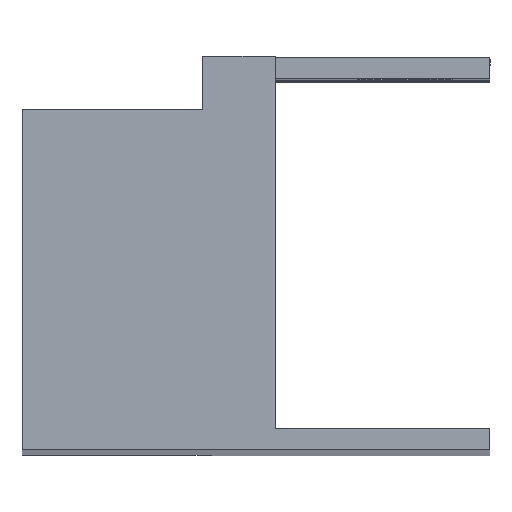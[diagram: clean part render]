
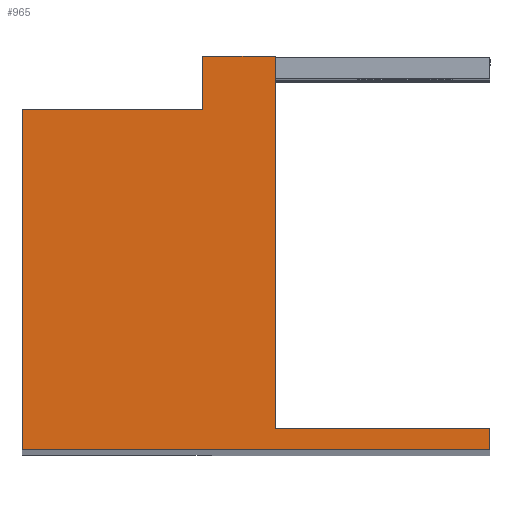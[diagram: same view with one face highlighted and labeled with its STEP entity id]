
A CAD part, top view. The second image highlights one B-rep face of the part: STEP entity #965.
In plain terms, the highlighted planar face has unit normal (0, 0, 1).
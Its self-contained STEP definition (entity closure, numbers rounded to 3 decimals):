
#1 = CARTESIAN_POINT ( 'NONE',  ( -6.1, -16.5, 113.25 ) ) ;
#18 = DIRECTION ( 'NONE',  ( 1., 0., 0. ) ) ;
#19 = CARTESIAN_POINT ( 'NONE',  ( -9.5, -1.5, 113.25 ) ) ;
#26 = DIRECTION ( 'NONE',  ( 0., 1., 0. ) ) ;
#53 = DIRECTION ( 'NONE',  ( 1., 0., 0. ) ) ;
#54 = CARTESIAN_POINT ( 'NONE',  ( -9.5, 1., 113.25 ) ) ;
#55 = CARTESIAN_POINT ( 'NONE',  ( 4., -16.5, 113.25 ) ) ;
#65 = CARTESIAN_POINT ( 'NONE',  ( 4., -17.5, 113.25 ) ) ;
#81 = CARTESIAN_POINT ( 'NONE',  ( -18., -17.5, 113.25 ) ) ;
#94 = DIRECTION ( 'NONE',  ( 0., 1., 0. ) ) ;
#102 = CARTESIAN_POINT ( 'NONE',  ( -6.1, 1., 113.25 ) ) ;
#107 = DIRECTION ( 'NONE',  ( -1., 0., 0. ) ) ;
#112 = CARTESIAN_POINT ( 'NONE',  ( -18., -1.5, 113.25 ) ) ;
#154 = DIRECTION ( 'NONE',  ( 1., 0., 0. ) ) ;
#155 = CARTESIAN_POINT ( 'NONE',  ( -6.1, 1., 113.25 ) ) ;
#245 = VERTEX_POINT ( 'NONE', #261 ) ;
#255 = VERTEX_POINT ( 'NONE', #65 ) ;
#261 = CARTESIAN_POINT ( 'NONE',  ( -9.5, 1., 113.25 ) ) ;
#262 = VERTEX_POINT ( 'NONE', #102 ) ;
#265 = DIRECTION ( 'NONE',  ( 0., -1., 0. ) ) ;
#268 = EDGE_CURVE ( 'NONE', #255, #955, #871, .T. ) ;
#285 = CARTESIAN_POINT ( 'NONE',  ( 4., -17.5, 113.25 ) ) ;
#296 = EDGE_CURVE ( 'NONE', #955, #922, #859, .T. ) ;
#309 = DIRECTION ( 'NONE',  ( 0., -1., 0. ) ) ;
#338 = CARTESIAN_POINT ( 'NONE',  ( -6.1, -16.5, 113.25 ) ) ;
#356 = CARTESIAN_POINT ( 'NONE',  ( -18., -17.5, 113.25 ) ) ;
#360 = DIRECTION ( 'NONE',  ( 0., -1., 0. ) ) ;
#363 = CARTESIAN_POINT ( 'NONE',  ( 4., -16.5, 113.25 ) ) ;
#364 = PLANE ( 'NONE',  #450 ) ;
#365 = CARTESIAN_POINT ( 'NONE',  ( -18., -17.5, 113.25 ) ) ;
#380 = DIRECTION ( 'NONE',  ( 0., 0., -1. ) ) ;
#409 = CARTESIAN_POINT ( 'NONE',  ( -18., -1.5, 113.25 ) ) ;
#415 = CARTESIAN_POINT ( 'NONE',  ( -9.5, -1.5, 113.25 ) ) ;
#437 = EDGE_CURVE ( 'NONE', #245, #262, #789, .T. ) ;
#450 = AXIS2_PLACEMENT_3D ( 'NONE', #356, #380, #360 ) ;
#474 = EDGE_CURVE ( 'NONE', #937, #951, #693, .T. ) ;
#479 = EDGE_CURVE ( 'NONE', #925, #245, #669, .T. ) ;
#481 = EDGE_CURVE ( 'NONE', #922, #925, #771, .T. ) ;
#485 = EDGE_CURVE ( 'NONE', #262, #937, #823, .T. ) ;
#506 = EDGE_CURVE ( 'NONE', #951, #255, #765, .T. ) ;
#593 = ORIENTED_EDGE ( 'NONE', *, *, #506, .F. ) ;
#613 = EDGE_LOOP ( 'NONE', ( #695, #665, #593, #622, #658, #620, #688, #631 ) ) ;
#620 = ORIENTED_EDGE ( 'NONE', *, *, #437, .F. ) ;
#622 = ORIENTED_EDGE ( 'NONE', *, *, #474, .F. ) ;
#631 = ORIENTED_EDGE ( 'NONE', *, *, #481, .F. ) ;
#639 = VECTOR ( 'NONE', #26, 1000. ) ;
#658 = ORIENTED_EDGE ( 'NONE', *, *, #485, .F. ) ;
#665 = ORIENTED_EDGE ( 'NONE', *, *, #268, .F. ) ;
#669 = LINE ( 'NONE', #54, #639 ) ;
#688 = ORIENTED_EDGE ( 'NONE', *, *, #479, .F. ) ;
#691 = VECTOR ( 'NONE', #53, 1000. ) ;
#693 = LINE ( 'NONE', #55, #691 ) ;
#695 = ORIENTED_EDGE ( 'NONE', *, *, #296, .F. ) ;
#753 = VECTOR ( 'NONE', #309, 1000. ) ;
#764 = VECTOR ( 'NONE', #265, 1000. ) ;
#765 = LINE ( 'NONE', #285, #764 ) ;
#771 = LINE ( 'NONE', #19, #883 ) ;
#788 = VECTOR ( 'NONE', #154, 1000. ) ;
#789 = LINE ( 'NONE', #155, #788 ) ;
#811 = FACE_OUTER_BOUND ( 'NONE', #613, .T. ) ;
#823 = LINE ( 'NONE', #1, #753 ) ;
#859 = LINE ( 'NONE', #112, #872 ) ;
#871 = LINE ( 'NONE', #81, #874 ) ;
#872 = VECTOR ( 'NONE', #94, 1000. ) ;
#874 = VECTOR ( 'NONE', #107, 1000. ) ;
#883 = VECTOR ( 'NONE', #18, 1000. ) ;
#922 = VERTEX_POINT ( 'NONE', #409 ) ;
#925 = VERTEX_POINT ( 'NONE', #415 ) ;
#937 = VERTEX_POINT ( 'NONE', #338 ) ;
#951 = VERTEX_POINT ( 'NONE', #363 ) ;
#955 = VERTEX_POINT ( 'NONE', #365 ) ;
#965 = ADVANCED_FACE ( 'NONE', ( #811 ), #364, .F. ) ;
